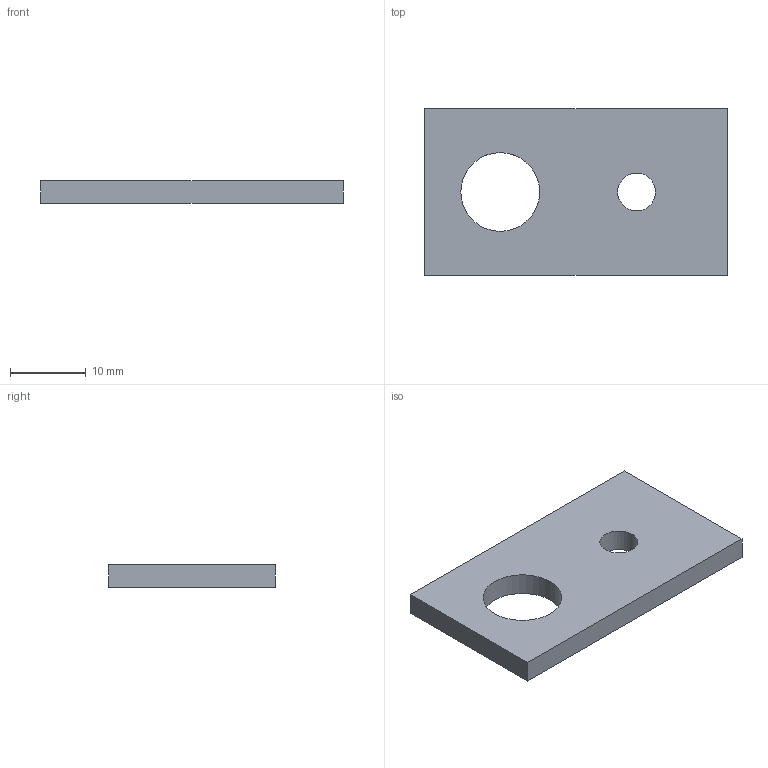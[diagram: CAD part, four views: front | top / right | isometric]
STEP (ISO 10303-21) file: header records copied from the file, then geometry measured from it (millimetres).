
FILE_DESCRIPTION(('Open CASCADE Model'),'2;1');
FILE_NAME('Open CASCADE Shape Model','2026-09-13T14:18:07',('Author'),( 'Open CASCADE'),'Open CASCADE STEP processor 7.9','Open CASCADE 7.9' ,'Unknown');
FILE_SCHEMA(('AUTOMOTIVE_DESIGN { 1 0 10303 214 1 1 1 1 }'));
Length unit declared in the file: millimetre
Products named in the file (1): Open CASCADE STEP translator 7.9 23
Bounding box: 40 x 22 x 3 mm (x, y, z)
Volume: 2326.2 mm3; surface area: 2068 mm2
Topology: 1 solids, 1 shells, 8 faces, 18 edges, 12 vertices
Faces by surface type: plane 6, cylinder 2
Full cylindrical faces by diameter (mm): 5 x1, 10.4 x1
Entity records: 478 total; most frequent: DIRECTION 76, CARTESIAN_POINT 75, LINE 46, VECTOR 46, ORIENTED_EDGE 36, PCURVE 36, DEFINITIONAL_REPRESENTATION 36, EDGE_CURVE 18
